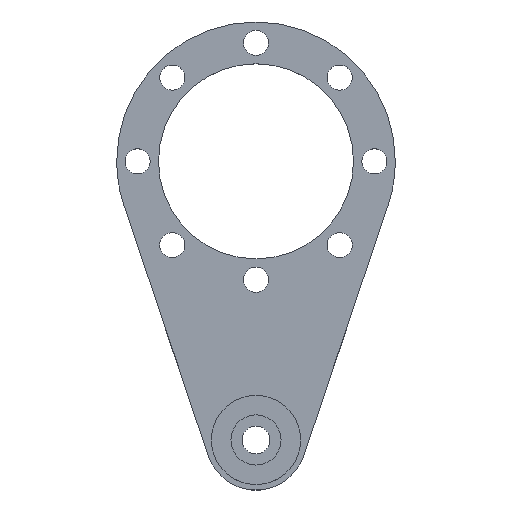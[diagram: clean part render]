
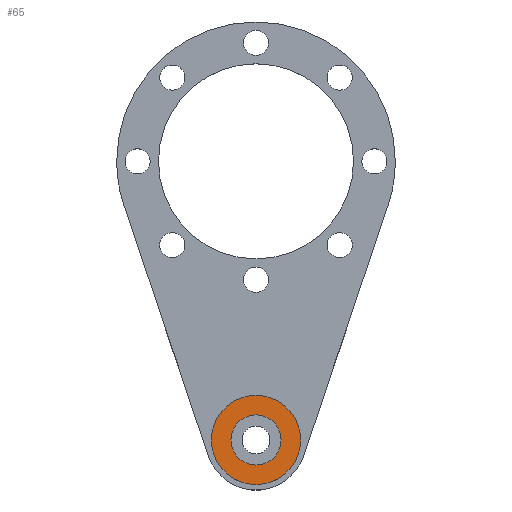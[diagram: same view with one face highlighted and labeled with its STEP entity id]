
A CAD part, top view. The second image highlights one B-rep face of the part: STEP entity #65.
In plain terms, the highlighted planar face has unit normal (0, 0, 1).
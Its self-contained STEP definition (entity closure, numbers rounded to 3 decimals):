
#19 = CIRCLE ( 'NONE', #1223, 9. ) ;
#21 = CIRCLE ( 'NONE', #1266, 16. ) ;
#65 = ADVANCED_FACE ( 'NONE', ( #1320, #1315 ), #541, .F. ) ;
#114 = EDGE_CURVE ( 'NONE', #719, #718, #21, .T. ) ;
#118 = EDGE_CURVE ( 'NONE', #206, #205, #19, .T. ) ;
#168 = EDGE_CURVE ( 'NONE', #205, #206, #749, .T. ) ;
#169 = EDGE_CURVE ( 'NONE', #718, #719, #748, .T. ) ;
#205 = VERTEX_POINT ( 'NONE', #865 ) ;
#206 = VERTEX_POINT ( 'NONE', #864 ) ;
#370 = ORIENTED_EDGE ( 'NONE', *, *, #168, .F. ) ;
#371 = ORIENTED_EDGE ( 'NONE', *, *, #118, .F. ) ;
#372 = ORIENTED_EDGE ( 'NONE', *, *, #114, .T. ) ;
#373 = ORIENTED_EDGE ( 'NONE', *, *, #169, .T. ) ;
#538 = DIRECTION ( 'NONE',  ( -1., 0., 0. ) ) ;
#539 = DIRECTION ( 'NONE',  ( 0., 0., -1. ) ) ;
#540 = CARTESIAN_POINT ( 'NONE',  ( 0., -84., 9. ) ) ;
#541 = PLANE ( 'NONE',  #1313 ) ;
#668 = EDGE_LOOP ( 'NONE', ( #370, #371 ) ) ;
#669 = EDGE_LOOP ( 'NONE', ( #372, #373 ) ) ;
#718 = VERTEX_POINT ( 'NONE', #803 ) ;
#719 = VERTEX_POINT ( 'NONE', #802 ) ;
#748 = CIRCLE ( 'NONE', #1153, 16. ) ;
#749 = CIRCLE ( 'NONE', #1160, 9. ) ;
#802 = CARTESIAN_POINT ( 'NONE',  ( 16., -100., 9. ) ) ;
#803 = CARTESIAN_POINT ( 'NONE',  ( -16., -100., 9. ) ) ;
#864 = CARTESIAN_POINT ( 'NONE',  ( -9., -100., 9. ) ) ;
#865 = CARTESIAN_POINT ( 'NONE',  ( 9., -100., 9. ) ) ;
#906 = DIRECTION ( 'NONE',  ( 1., 0., 0. ) ) ;
#907 = DIRECTION ( 'NONE',  ( 0., 0., 1. ) ) ;
#908 = CARTESIAN_POINT ( 'NONE',  ( 0., -100., 9. ) ) ;
#909 = DIRECTION ( 'NONE',  ( 1., 0., 0. ) ) ;
#910 = DIRECTION ( 'NONE',  ( 0., 0., 1. ) ) ;
#911 = CARTESIAN_POINT ( 'NONE',  ( 0., -100., 9. ) ) ;
#1033 = CARTESIAN_POINT ( 'NONE',  ( 0., -100., 9. ) ) ;
#1034 = DIRECTION ( 'NONE',  ( 1., 0., 0. ) ) ;
#1039 = CARTESIAN_POINT ( 'NONE',  ( 0., -100., 9. ) ) ;
#1060 = DIRECTION ( 'NONE',  ( 0., 0., 1. ) ) ;
#1064 = DIRECTION ( 'NONE',  ( 1., 0., 0. ) ) ;
#1087 = DIRECTION ( 'NONE',  ( 0., 0., 1. ) ) ;
#1153 = AXIS2_PLACEMENT_3D ( 'NONE', #908, #907, #906 ) ;
#1160 = AXIS2_PLACEMENT_3D ( 'NONE', #911, #910, #909 ) ;
#1223 = AXIS2_PLACEMENT_3D ( 'NONE', #1033, #1087, #1064 ) ;
#1266 = AXIS2_PLACEMENT_3D ( 'NONE', #1039, #1060, #1034 ) ;
#1313 = AXIS2_PLACEMENT_3D ( 'NONE', #540, #539, #538 ) ;
#1315 = FACE_OUTER_BOUND ( 'NONE', #669, .T. ) ;
#1320 = FACE_BOUND ( 'NONE', #668, .T. ) ;
